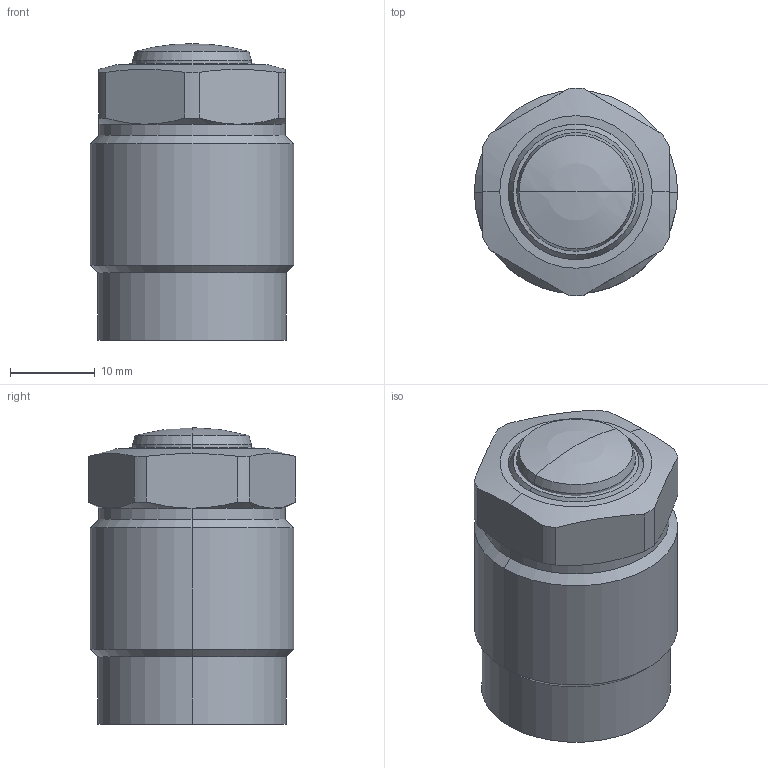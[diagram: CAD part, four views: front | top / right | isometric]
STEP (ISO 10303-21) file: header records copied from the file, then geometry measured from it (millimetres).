
FILE_DESCRIPTION((' '),'2;1');
FILE_NAME( 'TGP24-RS.x_t.stp', '2025-02-10T16:03:53', (' '), ('--- Datakit www.datakit.com---'), ' Datakit CrossCadWare V2024.1 Dec 21 2023', 'Mastercam 2025', ' ');
FILE_SCHEMA(('AUTOMOTIVE_DESIGN { 1 0 10303 214 1 1 1 1 }'));
Length unit declared in the file: millimetre
Products named in the file (1): TGP24-RS
Bounding box: 24 x 24.49 x 35 mm (x, y, z)
Volume: 15003 mm3; surface area: 4235.3 mm2
Topology: 2 solids, 2 shells, 65 faces, 147 edges, 89 vertices
Faces by surface type: cylinder 26, cone 18, plane 15, torus 4, sphere 2
Entity records: 1906 total; most frequent: CARTESIAN_POINT 418, DIRECTION 334, ORIENTED_EDGE 286, AXIS2_PLACEMENT_3D 145, EDGE_CURVE 143, VERTEX_POINT 89, CIRCLE 79, EDGE_LOOP 72
